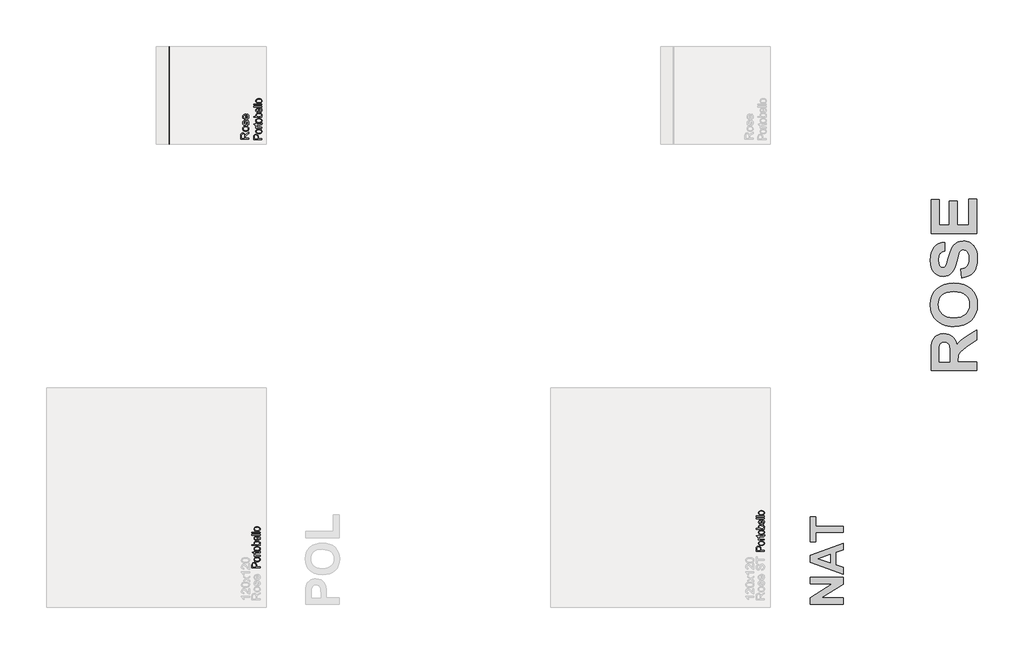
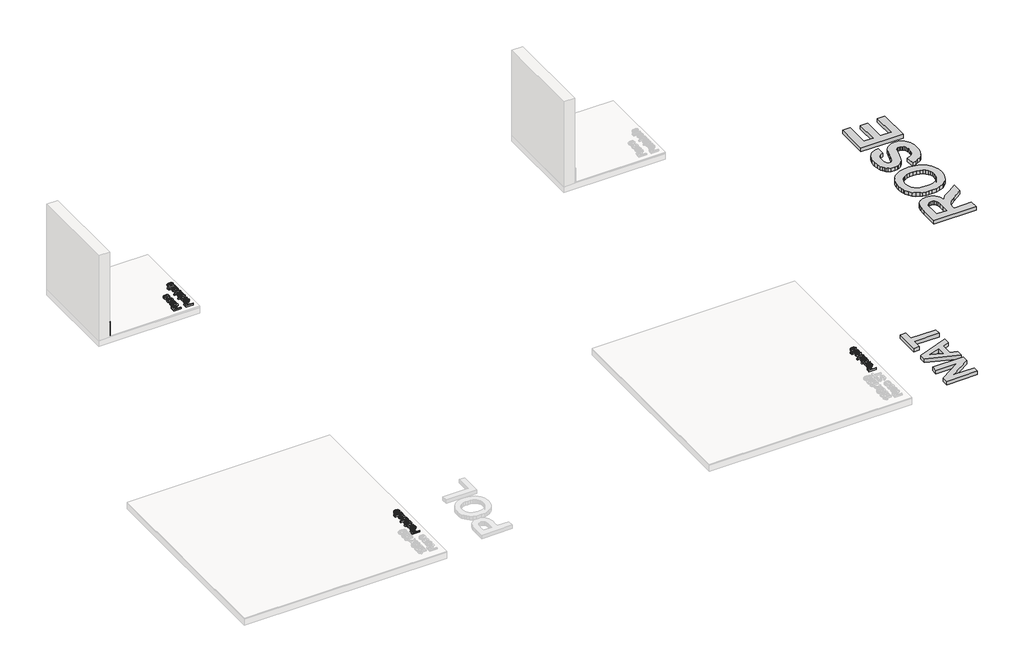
# One storey, part 3 of 14: 7 proxies.
"""IFC4 building model written with IfcOpenShell, lengths in millimetres."""

from ifc_helpers import new_model, si_unit, frame, origin, origin_with_axes, place, context, project, spatial, polyline, outline, extrude, element, save
from ifc_brep_helpers import plane_surface, extruded_surface, spline_curve, advanced_brep

model = new_model("IFC4")

# Units and contexts
model_context = context("Model", 3, world=origin())
ifc_project = project(units=[si_unit("LENGTHUNIT", "METRE", prefix="MILLI")], contexts=[model_context])

# Site, building, storey
site = spatial("IfcSite", under=ifc_project)
building = spatial("IfcBuilding", under=site)
storey = spatial("IfcBuildingStorey", under=building, Name="PORTOBELLO - SHOWROOM", Elevation=0.0)

# Proxies
placement = place(None, origin())
element("IfcBuildingElementProxy", 1, Name="RODAPE CRISTALLO ROSE 20X120 POL RET", ObjectType="RODAPE CRISTALLO ROSE 20X120 POL RET", at=placement, inside=storey, context=model_context, shape_type="AdvancedBrep", body=[
    advanced_brep(
    [(-11677.661959, -2964.6157886, 217.0), (-11677.661959, -2964.6157886, 17.0), (-11669.661959, -2964.6157886, 17.0), (-11669.661959, -2964.6157886, 209.0), (-11677.661959, -1764.6157886, 217.0), (-11669.661959, -1764.6157886, 209.0), (-11669.661959, -1764.6157886, 17.0), (-11677.661959, -1764.6157886, 17.0)],
    [
        (0, 1),
        (1, 2),
        (2, 3),
        (3, 0, spline_curve(3, [(-11669.661959, -2964.6157886, 209.0), (-11669.661959, -2964.6157886, 214.333333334), (-11672.328625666, -2964.6157886, 217.0), (-11677.661959, -2964.6157886, 217.0)], [4, 4], [0.0, 0.029527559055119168])),
        (4, 5, spline_curve(3, [(-11677.661959, -1764.6157886, 217.0), (-11672.328625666, -1764.6157886, 217.0), (-11669.661959, -1764.6157886, 214.333333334), (-11669.661959, -1764.6157886, 209.0)], [4, 4], [0.0, 0.029527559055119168])),
        (5, 6),
        (6, 7),
        (7, 4),
        (0, 4),
        (7, 1),
        (6, 2),
        (5, 3),
    ],
    [
        plane_surface(frame((-11877.661959, -2964.6157886, 17.0), z_axis=(0.0, -1.0, 0.0), x_axis=(0.0, 0.0, 1.0))),
        plane_surface(frame((-11877.661959, -1764.6157886, 17.0), z_axis=(0.0, 1.0, 0.0), x_axis=(0.0, 0.0, 1.0))),
        plane_surface(frame((-11677.661959, -2964.6157886, 217.0), z_axis=(-1.0, 0.0, 0.0), x_axis=(0.0, 1.0, 0.0))),
        plane_surface(frame((-11677.661959, -2964.6157886, 17.0), z_axis=(0.0, 0.0, -1.0), x_axis=(0.0, 1.0, 0.0))),
        plane_surface(frame((-11669.661959, -2964.6157886, 17.0), z_axis=(1.0, 0.0, 0.0), x_axis=(0.0, 1.0, 0.0))),
        extruded_surface(spline_curve(3, [(-11669.661959, -1764.6157886, 209.0), (-11669.661959, -1764.6157886, 214.333333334), (-11672.328625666, -1764.6157886, 217.0), (-11677.661959, -1764.6157886, 217.0)], [4, 4], [0.0, 0.029527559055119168]), (0.0, -1200.0, 0.0), 1200.0),
    ],
    [
        (0, [[1, 2, 3, 4]]),
        (1, [[5, 6, 7, 8]]),
        (2, [[-1, 9, -8, 10]]),
        (3, [[-2, -10, -7, 11]]),
        (4, [[-3, -11, -6, 12]]),
        (5, [[-4, -12, -5, -9]]),
    ],
),
])
element("IfcBuildingElementProxy", 2, Name="10mm Arial", ObjectType="10mm Arial", at=placement, inside=storey, context=model_context, shape_type="SweptSolid", body=[
    extrude(outline(polyline([(-10690.4182558, -2905.7397323), (-10790.8745659, -2905.7397323), (-10790.8745659, -2862.4522842), (-10788.1645019, -2842.3536645), (-10778.5750446, -2831.3662556), (-10763.3815182, -2827.25824), (-10753.4854925, -2828.9596942), (-10745.281724, -2834.0640569), (-10739.2668534, -2842.7246122), (-10735.9375213, -2855.0946443), (-10730.5664442, -2847.9577336), (-10717.6415234, -2837.7796651), (-10690.4182558, -2821.0287716), (-10690.4182558, -2835.621424), (-10711.2403767, -2848.6934976), (-10725.0236888, -2858.1358021), (-10731.5352001, -2864.7699408), (-10733.9264331, -2870.7418918), (-10734.3678915, -2878.0259553), (-10734.3678915, -2893.1826935), (-10690.4182558, -2893.1826935), (-10690.4182558, -2905.7397323)]), holes=[polyline([(-10746.9249302, -2893.1826935), (-10746.9249302, -2865.0765091), (-10748.7030266, -2850.741374), (-10754.3929347, -2842.5989192), (-10762.9155343, -2839.8152788), (-10773.9765196, -2845.1250422), (-10778.3175272, -2861.912724), (-10778.3175272, -2893.1826935), (-10746.9249302, -2893.1826935)])]), frame((0.0, 0.0, 18.0), z_axis=(0.0, 0.0, 1.0), x_axis=(1.0, 0.0, 0.0)), (0.0, 0.0, 1.0), 20.0),
    extrude(outline(polyline([(-10727.3045572, -2809.9923117), (-10745.0916516, -2807.2761163), (-10757.5935081, -2799.1275301), (-10763.7187433, -2789.0598262), (-10765.7604884, -2777.0055595), (-10763.2742193, -2763.8139243), (-10755.8154118, -2753.2771708), (-10743.9726772, -2746.3701863), (-10728.3346268, -2744.0678582), (-10705.9919269, -2748.1390856), (-10693.349049, -2759.9971486), (-10688.8486259, -2777.0055595), (-10691.325698, -2790.3566102), (-10698.7569143, -2800.881101), (-10710.8479693, -2807.714509), (-10727.3045572, -2809.9923117)]), holes=[polyline([(-10727.3290826, -2797.4352729), (-10715.9645947, -2795.9821391), (-10707.8681251, -2791.6227374), (-10703.0212798, -2785.0621752), (-10701.4056647, -2777.0055595), (-10703.0304769, -2768.985732), (-10707.9049133, -2762.4374325), (-10716.1086818, -2758.0780308), (-10727.7214901, -2756.6248969), (-10738.7548843, -2758.0872279), (-10746.7409893, -2762.4742207), (-10751.5878345, -2769.0317172), (-10753.2034496, -2777.0055595), (-10751.5939659, -2785.0621752), (-10746.7655147, -2791.6227374), (-10738.6874392, -2795.9821391), (-10727.3290826, -2797.4352729)])]), frame((0.0, 0.0, 18.0), z_axis=(0.0, 0.0, 1.0), x_axis=(1.0, 0.0, 0.0)), (0.0, 0.0, 1.0), 20.0),
    extrude(outline(polyline([(-10712.3930736, -2734.6500791), (-10713.9627035, -2722.0930403), (-10704.6430263, -2716.2805048), (-10701.4056647, -2702.9631766), (-10704.3732461, -2690.1608831), (-10711.3384786, -2685.9915539), (-10716.9793358, -2690.1854086), (-10720.5600539, -2703.1103294), (-10726.7036832, -2722.0194639), (-10733.8773822, -2730.2722834), (-10744.0063998, -2733.0804492), (-10753.3628652, -2730.8241063), (-10760.5120386, -2724.6682143), (-10764.2276468, -2716.685175), (-10765.7604884, -2705.8817071), (-10763.295679, -2690.6023415), (-10756.6247522, -2680.8902569), (-10745.3553004, -2676.5737748), (-10743.7856706, -2689.1308136), (-10750.7141148, -2693.8519658), (-10753.2034496, -2704.9006884), (-10750.8244794, -2716.9181669), (-10745.281724, -2720.5234105), (-10741.6274295, -2719.027357), (-10738.8560518, -2714.342993), (-10736.182776, -2703.5272623), (-10730.2721386, -2685.0963743), (-10723.5766863, -2676.5369866), (-10712.6628538, -2673.4345151), (-10700.6453753, -2677.0765468), (-10691.926572, -2687.5857092), (-10688.8486259, -2703.1348548), (-10690.3324167, -2715.7961268), (-10694.7837888, -2725.0360963), (-10702.1536914, -2731.2042511), (-10712.3930736, -2734.6500791)])), frame((0.0, 0.0, 18.0), z_axis=(0.0, 0.0, 1.0), x_axis=(1.0, 0.0, 0.0)), (0.0, 0.0, 1.0), 20.0),
    extrude(outline(polyline([(-10712.3930736, -2607.6572144), (-10710.8234438, -2595.3454303), (-10701.5466861, -2599.781474), (-10694.6121105, -2606.8601367), (-10690.2894971, -2616.4220029), (-10688.8486259, -2628.307657), (-10691.3348951, -2643.0413309), (-10698.7937025, -2654.3782277), (-10710.7406703, -2661.607109), (-10726.6914205, -2664.016736), (-10743.1786653, -2661.5825835), (-10755.5088435, -2654.2801259), (-10763.1975772, -2643.0965132), (-10765.7604884, -2629.0188955), (-10763.2037085, -2615.3796706), (-10755.5333689, -2604.4811665), (-10743.2277162, -2597.3350587), (-10726.7649969, -2594.9530228), (-10723.3804826, -2595.0265992), (-10723.3804826, -2651.4596973), (-10713.9810976, -2649.2861278), (-10707.0710474, -2644.2369474), (-10702.8220104, -2636.9498182), (-10701.4056647, -2628.0624024), (-10704.0298896, -2615.7506183), (-10712.3930736, -2607.6572144)]), holes=[polyline([(-10735.9375213, -2651.4596973), (-10735.9375213, -2607.5100616), (-10747.3173377, -2612.5377822), (-10751.7319217, -2619.8586339), (-10753.2034496, -2629.0679465), (-10748.5068228, -2644.531253), (-10743.016184, -2649.3964924), (-10735.9375213, -2651.4596973)])]), frame((0.0, 0.0, 18.0), z_axis=(0.0, 0.0, 1.0), x_axis=(1.0, 0.0, 0.0)), (0.0, 0.0, 1.0), 20.0),
])
element("IfcBuildingElementProxy", 3, Name="10mm Arial Narrow", ObjectType="10mm Arial Narrow", at=placement, inside=storey, context=model_context, shape_type="SweptSolid", body=[
    extrude(outline(polyline([(-10552.2181326, -8175.4190736), (-10652.9367364, -8175.4190736), (-10652.9367364, -8144.1221889), (-10651.0584157, -8127.8264874), (-10641.5779725, -8116.3535013), (-10624.5588637, -8112.0638228), (-10612.4830381, -8113.8501312), (-10602.8566444, -8119.2090564), (-10596.555386, -8128.9528453), (-10594.4549665, -8143.8937445), (-10594.4549665, -8165.6721119), (-10552.2181326, -8165.6721119), (-10552.2181326, -8175.4190736)]), holes=[polyline([(-10605.8264217, -8165.6721119), (-10605.8264217, -8142.700757), (-10610.3572359, -8126.8365616), (-10624.0258267, -8121.8107845), (-10634.1916031, -8124.285599), (-10639.991553, -8130.2632278), (-10641.5652811, -8142.9292014), (-10641.5652811, -8165.6721119), (-10605.8264217, -8165.6721119)])]), frame((0.0, 0.0, 17.0), z_axis=(0.0, 0.0, 1.0), x_axis=(1.0, 0.0, 0.0)), (0.0, 0.0, 1.0), 20.0),
    extrude(outline(polyline([(-10588.7692388, -8103.9413548), (-10605.3600144, -8101.9868859), (-10617.3120992, -8096.1234793), (-10624.5366538, -8087.2649126), (-10626.9448387, -8076.3249634), (-10624.5366538, -8065.5119279), (-10617.3120992, -8056.6279784), (-10605.5503847, -8050.6884237), (-10589.5307202, -8048.7085721), (-10572.3688336, -8050.6535224), (-10560.2263785, -8056.4883735), (-10553.0018239, -8065.3374217), (-10550.593639, -8076.3249634), (-10553.0081696, -8087.1855916), (-10560.2517612, -8096.0600225), (-10572.2101917, -8101.9710217), (-10588.7692388, -8103.9413548)]), holes=[polyline([(-10588.7946216, -8094.1943931), (-10576.2428702, -8092.8903563), (-10567.3716121, -8088.9782457), (-10562.0983535, -8083.1370489), (-10560.3406007, -8076.0457536), (-10562.1142177, -8069.3256804), (-10567.4350689, -8063.6336071), (-10576.3221911, -8059.7500521), (-10588.7946216, -8058.4555337), (-10601.3082989, -8059.7595706), (-10610.1668656, -8063.6716812), (-10615.4401242, -8069.5128779), (-10617.197877, -8076.6041733), (-10615.4306056, -8083.371839), (-10610.1287915, -8089.0543938), (-10601.2607063, -8092.9093933), (-10588.7946216, -8094.1943931)])]), frame((0.0, 0.0, 17.0), z_axis=(0.0, 0.0, 1.0), x_axis=(1.0, 0.0, 0.0)), (0.0, 0.0, 1.0), 20.0),
    extrude(outline(polyline([(-10560.3406007, -7977.2308533), (-10550.593639, -7975.6063597), (-10550.593639, -7982.9673463), (-10552.7130955, -7991.2421107), (-10558.5130454, -7995.5571718), (-10573.1588706, -7996.7247766), (-10615.5733834, -7996.7247766), (-10615.5733834, -8004.8472446), (-10618.8223706, -8004.8472446), (-10613.9488898, -8006.4717383), (-10615.5733834, -8014.0357866), (-10613.2508652, -8020.1149463), (-10606.7655821, -8023.98581), (-10591.3582755, -8025.9656616), (-10552.2181326, -8025.9656616), (-10552.2181326, -8035.7126232), (-10625.320345, -8035.7126232), (-10625.320345, -8025.9656616), (-10615.6241488, -8025.9656616), (-10624.7111599, -8019.7215142), (-10626.9448387, -8013.3250707), (-10625.320345, -8004.8472446), (-10625.320345, -7996.7247766), (-10641.5652811, -7996.7247766), (-10649.6877492, -7986.9778149), (-10625.320345, -7986.9778149), (-10625.320345, -7977.2308533), (-10615.5733834, -7977.2308533), (-10615.5733834, -7986.9778149), (-10570.9251919, -7986.9778149), (-10562.9296374, -7986.1148027), (-10560.3406007, -7981.495149), (-10560.3406007, -7977.2308533)])), frame((0.0, 0.0, 17.0), z_axis=(0.0, 0.0, 1.0), x_axis=(1.0, 0.0, 0.0)), (0.0, 0.0, 1.0), 20.0),
    extrude(outline(polyline([(-10588.7692388, -7970.7328789), (-10605.3600144, -7968.77841), (-10617.3120992, -7962.9150034), (-10624.5366538, -7954.0564367), (-10626.9448387, -7943.1164875), (-10624.5366538, -7932.3034519), (-10617.3120992, -7923.4195025), (-10605.5503847, -7917.4799477), (-10589.5307202, -7915.5000962), (-10572.3688336, -7917.4450465), (-10560.2263785, -7923.2798976), (-10553.0018239, -7932.1289458), (-10550.593639, -7943.1164875), (-10553.0081696, -7953.9771157), (-10560.2517612, -7962.8515466), (-10572.2101917, -7968.7625458), (-10588.7692388, -7970.7328789)]), holes=[polyline([(-10588.7946216, -7960.9859172), (-10576.2428702, -7959.6818803), (-10567.3716121, -7955.7697698), (-10562.0983535, -7949.928573), (-10560.3406007, -7942.8372777), (-10562.1142177, -7936.1172045), (-10567.4350689, -7930.4251312), (-10576.3221911, -7926.5415762), (-10588.7946216, -7925.2470578), (-10601.3082989, -7926.5510947), (-10610.1668656, -7930.4632053), (-10615.4401242, -7936.304402), (-10617.197877, -7943.3956973), (-10615.4306056, -7950.1633631), (-10610.1287915, -7955.8459179), (-10601.2607063, -7959.7009174), (-10588.7946216, -7960.9859172)])]), frame((0.0, 0.0, 17.0), z_axis=(0.0, 0.0, 1.0), x_axis=(1.0, 0.0, 0.0)), (0.0, 0.0, 1.0), 20.0),
    extrude(outline(polyline([(-10552.2181326, -7892.7571856), (-10552.2181326, -7902.5041473), (-10652.9367364, -7902.5041473), (-10652.9367364, -7892.7571856), (-10617.5278523, -7892.7571856), (-10624.6096291, -7885.3581249), (-10626.9448387, -7876.1568916), (-10622.7439997, -7863.2751649), (-10610.0145693, -7853.9977834), (-10589.3276585, -7850.5203518), (-10572.8733151, -7852.4526108), (-10560.670576, -7858.2493878), (-10553.1128733, -7866.6225101), (-10550.593639, -7876.2838051), (-10553.2080584, -7885.6246434), (-10560.9751685, -7892.7571856), (-10552.2181326, -7892.7571856)]), holes=[polyline([(-10589.3276585, -7892.7571856), (-10572.0801053, -7890.6758032), (-10563.3484521, -7884.7870139), (-10560.3406007, -7876.3345705), (-10562.1300819, -7870.391843), (-10567.4985257, -7865.1534856), (-10588.9215351, -7860.2673134), (-10610.3572359, -7864.9758066), (-10615.4877167, -7870.2205096), (-10617.197877, -7876.5376323), (-10615.4083958, -7882.5152611), (-10610.039952, -7887.8075567), (-10589.3276585, -7892.7571856)])]), frame((0.0, 0.0, 17.0), z_axis=(0.0, 0.0, 1.0), x_axis=(1.0, 0.0, 0.0)), (0.0, 0.0, 1.0), 20.0),
    extrude(outline(polyline([(-10574.9610432, -7798.5365563), (-10573.3365496, -7788.7895947), (-10563.449983, -7792.489125), (-10556.3301321, -7798.3081119), (-10552.0277623, -7806.0117652), (-10550.593639, -7815.3652948), (-10553.0081696, -7826.9588488), (-10560.2517612, -7836.102971), (-10572.0578954, -7842.0425258), (-10588.1600537, -7844.0223774), (-10604.8269774, -7842.0330073), (-10617.0075067, -7836.0648969), (-10624.4605057, -7827.0508611), (-10626.9448387, -7815.9237145), (-10624.5461723, -7805.2407653), (-10617.3501733, -7796.4932479), (-10605.6106687, -7790.6583969), (-10589.5814857, -7788.7134465), (-10586.3324984, -7788.7895947), (-10586.3324984, -7834.2754157), (-10566.8893406, -7828.2724042), (-10561.9777857, -7822.3423679), (-10560.3406007, -7815.2383812), (-10563.9957113, -7805.0599135), (-10574.9610432, -7798.5365563)]), holes=[polyline([(-10596.0794601, -7833.6154652), (-10596.0794601, -7798.5365563), (-10610.3445446, -7802.800852), (-10615.4845439, -7808.6261846), (-10617.197877, -7815.8475663), (-10611.4867667, -7828.0566511), (-10596.0794601, -7833.6154652)])]), frame((0.0, 0.0, 17.0), z_axis=(0.0, 0.0, 1.0), x_axis=(1.0, 0.0, 0.0)), (0.0, 0.0, 1.0), 20.0),
    extrude(outline(polyline([(-10552.2181326, -7775.7936458), (-10652.9367364, -7775.7936458), (-10652.9367364, -7766.0466841), (-10552.2181326, -7766.0466841), (-10552.2181326, -7775.7936458)])), frame((0.0, 0.0, 17.0), z_axis=(0.0, 0.0, 1.0), x_axis=(1.0, 0.0, 0.0)), (0.0, 0.0, 1.0), 20.0),
    extrude(outline(polyline([(-10552.2181326, -7749.801748), (-10652.9367364, -7749.801748), (-10652.9367364, -7740.0547864), (-10552.2181326, -7740.0547864), (-10552.2181326, -7749.801748)])), frame((0.0, 0.0, 17.0), z_axis=(0.0, 0.0, 1.0), x_axis=(1.0, 0.0, 0.0)), (0.0, 0.0, 1.0), 20.0),
    extrude(outline(polyline([(-10588.7692388, -7728.6833311), (-10605.3600144, -7726.7288623), (-10617.3120992, -7720.8654556), (-10624.5366538, -7712.0068889), (-10626.9448387, -7701.0669398), (-10624.5366538, -7690.2539042), (-10617.3120992, -7681.3699548), (-10605.5503847, -7675.4304), (-10589.5307202, -7673.4505484), (-10572.3688336, -7675.3954988), (-10560.2263785, -7681.2303498), (-10553.0018239, -7690.079398), (-10550.593639, -7701.0669398), (-10553.0081696, -7711.9275679), (-10560.2517612, -7720.8019989), (-10572.2101917, -7726.7129981), (-10588.7692388, -7728.6833311)]), holes=[polyline([(-10588.7946216, -7718.9363695), (-10576.2428702, -7717.6323326), (-10567.3716121, -7713.720222), (-10562.0983535, -7707.8790253), (-10560.3406007, -7700.7877299), (-10562.1142177, -7694.0676568), (-10567.4350689, -7688.3755835), (-10576.3221911, -7684.4920284), (-10588.7946216, -7683.1975101), (-10601.3082989, -7684.5015469), (-10610.1668656, -7688.4136575), (-10615.4401242, -7694.2548543), (-10617.197877, -7701.3461496), (-10615.4306056, -7708.1138154), (-10610.1287915, -7713.7963702), (-10601.2607063, -7717.6513696), (-10588.7946216, -7718.9363695)])]), frame((0.0, 0.0, 17.0), z_axis=(0.0, 0.0, 1.0), x_axis=(1.0, 0.0, 0.0)), (0.0, 0.0, 1.0), 20.0),
])
element("IfcBuildingElementProxy", 4, Name="10mm Arial Narrow", ObjectType="10mm Arial Narrow", at=placement, inside=storey, context=model_context, shape_type="SweptSolid", body=[
    extrude(outline(polyline([(-4352.1931166, -7975.4190736), (-4452.9117203, -7975.4190736), (-4452.9117203, -7944.1221889), (-4451.0333996, -7927.8264874), (-4441.5529564, -7916.3535013), (-4424.5338476, -7912.0638228), (-4412.4580221, -7913.8501312), (-4402.8316283, -7919.2090564), (-4396.5303699, -7928.9528453), (-4394.4299504, -7943.8937445), (-4394.4299504, -7965.6721119), (-4352.1931166, -7965.6721119), (-4352.1931166, -7975.4190736)]), holes=[polyline([(-4405.8014057, -7965.6721119), (-4405.8014057, -7942.700757), (-4410.3322199, -7926.8365616), (-4424.0008106, -7921.8107845), (-4434.166587, -7924.285599), (-4439.9665369, -7930.2632278), (-4441.5402651, -7942.9292014), (-4441.5402651, -7965.6721119), (-4405.8014057, -7965.6721119)])]), frame((0.0, 0.0, 17.0), z_axis=(0.0, 0.0, 1.0), x_axis=(1.0, 0.0, 0.0)), (0.0, 0.0, 1.0), 20.0),
    extrude(outline(polyline([(-4388.7442228, -7903.9413548), (-4405.3349983, -7901.9868859), (-4417.2870831, -7896.1234793), (-4424.5116377, -7887.2649126), (-4426.9198226, -7876.3249634), (-4424.5116377, -7865.5119279), (-4417.2870831, -7856.6279784), (-4405.5253687, -7850.6884237), (-4389.5057041, -7848.7085721), (-4372.3438176, -7850.6535224), (-4360.2013624, -7856.4883735), (-4352.9768078, -7865.3374217), (-4350.568623, -7876.3249634), (-4352.9831535, -7887.1855916), (-4360.2267451, -7896.0600225), (-4372.1851756, -7901.9710217), (-4388.7442228, -7903.9413548)]), holes=[polyline([(-4388.7696055, -7894.1943931), (-4376.2178541, -7892.8903563), (-4367.346596, -7888.9782457), (-4362.0733375, -7883.1370489), (-4360.3155846, -7876.0457536), (-4362.0892017, -7869.3256804), (-4367.4100528, -7863.6336071), (-4376.2971751, -7859.7500521), (-4388.7696055, -7858.4555337), (-4401.2832828, -7859.7595706), (-4410.1418495, -7863.6716812), (-4415.4151081, -7869.5128779), (-4417.1728609, -7876.6041733), (-4415.4055896, -7883.371839), (-4410.1037755, -7889.0543938), (-4401.2356902, -7892.9093933), (-4388.7696055, -7894.1943931)])]), frame((0.0, 0.0, 17.0), z_axis=(0.0, 0.0, 1.0), x_axis=(1.0, 0.0, 0.0)), (0.0, 0.0, 1.0), 20.0),
    extrude(outline(polyline([(-4360.3155846, -7777.2308533), (-4350.568623, -7775.6063597), (-4350.568623, -7782.9673463), (-4352.6880795, -7791.2421107), (-4358.4880293, -7795.5571718), (-4373.1338545, -7796.7247766), (-4415.5483673, -7796.7247766), (-4415.5483673, -7804.8472446), (-4418.7973545, -7804.8472446), (-4413.9238737, -7806.4717383), (-4415.5483673, -7814.0357866), (-4413.2258491, -7820.1149463), (-4406.740566, -7823.98581), (-4391.3332595, -7825.9656616), (-4352.1931166, -7825.9656616), (-4352.1931166, -7835.7126232), (-4425.295329, -7835.7126232), (-4425.295329, -7825.9656616), (-4415.5991327, -7825.9656616), (-4424.6861439, -7819.7215142), (-4426.9198226, -7813.3250707), (-4425.295329, -7804.8472446), (-4425.295329, -7796.7247766), (-4441.5402651, -7796.7247766), (-4449.6627331, -7786.9778149), (-4425.295329, -7786.9778149), (-4425.295329, -7777.2308533), (-4415.5483673, -7777.2308533), (-4415.5483673, -7786.9778149), (-4370.9001758, -7786.9778149), (-4362.9046213, -7786.1148027), (-4360.3155846, -7781.495149), (-4360.3155846, -7777.2308533)])), frame((0.0, 0.0, 17.0), z_axis=(0.0, 0.0, 1.0), x_axis=(1.0, 0.0, 0.0)), (0.0, 0.0, 1.0), 20.0),
    extrude(outline(polyline([(-4388.7442228, -7770.7328789), (-4405.3349983, -7768.77841), (-4417.2870831, -7762.9150034), (-4424.5116377, -7754.0564367), (-4426.9198226, -7743.1164875), (-4424.5116377, -7732.3034519), (-4417.2870831, -7723.4195025), (-4405.5253687, -7717.4799477), (-4389.5057041, -7715.5000962), (-4372.3438176, -7717.4450465), (-4360.2013624, -7723.2798976), (-4352.9768078, -7732.1289458), (-4350.568623, -7743.1164875), (-4352.9831535, -7753.9771157), (-4360.2267451, -7762.8515466), (-4372.1851756, -7768.7625458), (-4388.7442228, -7770.7328789)]), holes=[polyline([(-4388.7696055, -7760.9859172), (-4376.2178541, -7759.6818803), (-4367.346596, -7755.7697698), (-4362.0733375, -7749.928573), (-4360.3155846, -7742.8372777), (-4362.0892017, -7736.1172045), (-4367.4100528, -7730.4251312), (-4376.2971751, -7726.5415762), (-4388.7696055, -7725.2470578), (-4401.2832828, -7726.5510947), (-4410.1418495, -7730.4632053), (-4415.4151081, -7736.304402), (-4417.1728609, -7743.3956973), (-4415.4055896, -7750.1633631), (-4410.1037755, -7755.8459179), (-4401.2356902, -7759.7009174), (-4388.7696055, -7760.9859172)])]), frame((0.0, 0.0, 17.0), z_axis=(0.0, 0.0, 1.0), x_axis=(1.0, 0.0, 0.0)), (0.0, 0.0, 1.0), 20.0),
    extrude(outline(polyline([(-4352.1931166, -7692.7571856), (-4352.1931166, -7702.5041473), (-4452.9117203, -7702.5041473), (-4452.9117203, -7692.7571856), (-4417.5028362, -7692.7571856), (-4424.584613, -7685.3581249), (-4426.9198226, -7676.1568916), (-4422.7189836, -7663.2751649), (-4409.9895532, -7653.9977834), (-4389.3026424, -7650.5203518), (-4372.848299, -7652.4526108), (-4360.6455599, -7658.2493878), (-4353.0878572, -7666.6225101), (-4350.568623, -7676.2838051), (-4353.1830424, -7685.6246434), (-4360.9501524, -7692.7571856), (-4352.1931166, -7692.7571856)]), holes=[polyline([(-4389.3026424, -7692.7571856), (-4372.0550892, -7690.6758032), (-4363.3234361, -7684.7870139), (-4360.3155846, -7676.3345705), (-4362.1050659, -7670.391843), (-4367.4735096, -7665.1534856), (-4388.896519, -7660.2673134), (-4410.3322199, -7664.9758066), (-4415.4627007, -7670.2205096), (-4417.1728609, -7676.5376323), (-4415.3833797, -7682.5152611), (-4410.014936, -7687.8075567), (-4389.3026424, -7692.7571856)])]), frame((0.0, 0.0, 17.0), z_axis=(0.0, 0.0, 1.0), x_axis=(1.0, 0.0, 0.0)), (0.0, 0.0, 1.0), 20.0),
    extrude(outline(polyline([(-4374.9360271, -7598.5365563), (-4373.3115335, -7588.7895947), (-4363.4249669, -7592.489125), (-4356.305116, -7598.3081119), (-4352.0027462, -7606.0117652), (-4350.568623, -7615.3652948), (-4352.9831535, -7626.9588488), (-4360.2267451, -7636.102971), (-4372.0328793, -7642.0425258), (-4388.1350377, -7644.0223774), (-4404.8019614, -7642.0330073), (-4416.9824906, -7636.0648969), (-4424.4354896, -7627.0508611), (-4426.9198226, -7615.9237145), (-4424.5211562, -7605.2407653), (-4417.3251572, -7596.4932479), (-4405.5856526, -7590.6583969), (-4389.5564696, -7588.7134465), (-4386.3074824, -7588.7895947), (-4386.3074824, -7634.2754157), (-4366.8643245, -7628.2724042), (-4361.9527696, -7622.3423679), (-4360.3155846, -7615.2383812), (-4363.9706952, -7605.0599135), (-4374.9360271, -7598.5365563)]), holes=[polyline([(-4396.054444, -7633.6154652), (-4396.054444, -7598.5365563), (-4410.3195285, -7602.800852), (-4415.4595278, -7608.6261846), (-4417.1728609, -7615.8475663), (-4411.4617506, -7628.0566511), (-4396.054444, -7633.6154652)])]), frame((0.0, 0.0, 17.0), z_axis=(0.0, 0.0, 1.0), x_axis=(1.0, 0.0, 0.0)), (0.0, 0.0, 1.0), 20.0),
    extrude(outline(polyline([(-4352.1931166, -7575.7936458), (-4452.9117203, -7575.7936458), (-4452.9117203, -7566.0466841), (-4352.1931166, -7566.0466841), (-4352.1931166, -7575.7936458)])), frame((0.0, 0.0, 17.0), z_axis=(0.0, 0.0, 1.0), x_axis=(1.0, 0.0, 0.0)), (0.0, 0.0, 1.0), 20.0),
    extrude(outline(polyline([(-4352.1931166, -7549.801748), (-4452.9117203, -7549.801748), (-4452.9117203, -7540.0547864), (-4352.1931166, -7540.0547864), (-4352.1931166, -7549.801748)])), frame((0.0, 0.0, 17.0), z_axis=(0.0, 0.0, 1.0), x_axis=(1.0, 0.0, 0.0)), (0.0, 0.0, 1.0), 20.0),
    extrude(outline(polyline([(-4388.7442228, -7528.6833311), (-4405.3349983, -7526.7288623), (-4417.2870831, -7520.8654556), (-4424.5116377, -7512.0068889), (-4426.9198226, -7501.0669398), (-4424.5116377, -7490.2539042), (-4417.2870831, -7481.3699548), (-4405.5253687, -7475.4304), (-4389.5057041, -7473.4505484), (-4372.3438176, -7475.3954988), (-4360.2013624, -7481.2303498), (-4352.9768078, -7490.079398), (-4350.568623, -7501.0669398), (-4352.9831535, -7511.9275679), (-4360.2267451, -7520.8019989), (-4372.1851756, -7526.7129981), (-4388.7442228, -7528.6833311)]), holes=[polyline([(-4388.7696055, -7518.9363695), (-4376.2178541, -7517.6323326), (-4367.346596, -7513.720222), (-4362.0733375, -7507.8790253), (-4360.3155846, -7500.7877299), (-4362.0892017, -7494.0676568), (-4367.4100528, -7488.3755835), (-4376.2971751, -7484.4920284), (-4388.7696055, -7483.1975101), (-4401.2832828, -7484.5015469), (-4410.1418495, -7488.4136575), (-4415.4151081, -7494.2548543), (-4417.1728609, -7501.3461496), (-4415.4055896, -7508.1138154), (-4410.1037755, -7513.7963702), (-4401.2356902, -7517.6513696), (-4388.7696055, -7518.9363695)])]), frame((0.0, 0.0, 17.0), z_axis=(0.0, 0.0, 1.0), x_axis=(1.0, 0.0, 0.0)), (0.0, 0.0, 1.0), 20.0),
])
element("IfcBuildingElementProxy", 5, Name="10mm Arial Narrow", ObjectType="10mm Arial Narrow", at=placement, inside=storey, context=model_context, shape_type="SweptSolid", body=[
    extrude(outline(polyline([(-10530.4182558, -2908.6046732), (-10631.1368595, -2908.6046732), (-10631.1368595, -2877.3077885), (-10629.2585388, -2861.012087), (-10619.7780956, -2849.5391009), (-10602.7589868, -2845.2494224), (-10590.6831613, -2847.0357308), (-10581.0567675, -2852.3946561), (-10574.7555091, -2862.1384449), (-10572.6550896, -2877.0793441), (-10572.6550896, -2898.8577115), (-10530.4182558, -2898.8577115), (-10530.4182558, -2908.6046732)]), holes=[polyline([(-10584.0265449, -2898.8577115), (-10584.0265449, -2875.8863566), (-10588.5573591, -2860.0221612), (-10602.2259498, -2854.9963841), (-10612.3917263, -2857.4711986), (-10618.1916761, -2863.4488274), (-10619.7654043, -2876.114801), (-10619.7654043, -2898.8577115), (-10584.0265449, -2898.8577115)])]), frame((0.0, 0.0, 18.0), z_axis=(0.0, 0.0, 1.0), x_axis=(1.0, 0.0, 0.0)), (0.0, 0.0, 1.0), 20.0),
    extrude(outline(polyline([(-10566.969362, -2837.1269544), (-10583.5601375, -2835.1724855), (-10595.5122224, -2829.3090789), (-10602.7367769, -2820.4505122), (-10605.1449618, -2809.5105631), (-10602.7367769, -2798.6975275), (-10595.5122224, -2789.813578), (-10583.7505079, -2783.8740233), (-10567.7308434, -2781.8941717), (-10550.5689568, -2783.8391221), (-10538.4265016, -2789.6739731), (-10531.201947, -2798.5230213), (-10528.7937622, -2809.5105631), (-10531.2082927, -2820.3711912), (-10538.4518843, -2829.2456221), (-10550.4103148, -2835.1566213), (-10566.969362, -2837.1269544)]), holes=[polyline([(-10566.9947447, -2827.3799927), (-10554.4429933, -2826.0759559), (-10545.5717352, -2822.1638453), (-10540.2984767, -2816.3226486), (-10538.5407238, -2809.2313532), (-10540.3143409, -2802.51128), (-10545.635192, -2796.8192067), (-10554.5223143, -2792.9356517), (-10566.9947447, -2791.6411334), (-10579.508422, -2792.9451702), (-10588.3669887, -2796.8572808), (-10593.6402473, -2802.6984775), (-10595.3980001, -2809.7897729), (-10593.6307288, -2816.5574386), (-10588.3289147, -2822.2399934), (-10579.4608294, -2826.0949929), (-10566.9947447, -2827.3799927)])]), frame((0.0, 0.0, 18.0), z_axis=(0.0, 0.0, 1.0), x_axis=(1.0, 0.0, 0.0)), (0.0, 0.0, 1.0), 20.0),
    extrude(outline(polyline([(-10538.5407238, -2710.4164529), (-10528.7937622, -2708.7919593), (-10528.7937622, -2716.152946), (-10530.9132187, -2724.4277103), (-10536.7131685, -2728.7427714), (-10551.3589937, -2729.9103762), (-10593.7735065, -2729.9103762), (-10593.7735065, -2738.0328443), (-10597.0224938, -2738.0328443), (-10592.1490129, -2739.6573379), (-10593.7735065, -2747.2213862), (-10591.4509883, -2753.3005459), (-10584.9657053, -2757.1714096), (-10569.5583987, -2759.1512612), (-10530.4182558, -2759.1512612), (-10530.4182558, -2768.8982228), (-10603.5204682, -2768.8982228), (-10603.5204682, -2759.1512612), (-10593.824272, -2759.1512612), (-10602.9112831, -2752.9071139), (-10605.1449618, -2746.5106703), (-10603.5204682, -2738.0328443), (-10603.5204682, -2729.9103762), (-10619.7654043, -2729.9103762), (-10627.8878723, -2720.1634146), (-10603.5204682, -2720.1634146), (-10603.5204682, -2710.4164529), (-10593.7735065, -2710.4164529), (-10593.7735065, -2720.1634146), (-10549.125315, -2720.1634146), (-10541.1297605, -2719.3004023), (-10538.5407238, -2714.6807486), (-10538.5407238, -2710.4164529)])), frame((0.0, 0.0, 18.0), z_axis=(0.0, 0.0, 1.0), x_axis=(1.0, 0.0, 0.0)), (0.0, 0.0, 1.0), 20.0),
    extrude(outline(polyline([(-10566.969362, -2703.9184785), (-10583.5601375, -2701.9640096), (-10595.5122224, -2696.100603), (-10602.7367769, -2687.2420363), (-10605.1449618, -2676.3020871), (-10602.7367769, -2665.4890515), (-10595.5122224, -2656.6051021), (-10583.7505079, -2650.6655474), (-10567.7308434, -2648.6856958), (-10550.5689568, -2650.6306461), (-10538.4265016, -2656.4654972), (-10531.201947, -2665.3145454), (-10528.7937622, -2676.3020871), (-10531.2082927, -2687.1627153), (-10538.4518843, -2696.0371462), (-10550.4103148, -2701.9481454), (-10566.969362, -2703.9184785)]), holes=[polyline([(-10566.9947447, -2694.1715168), (-10554.4429933, -2692.86748), (-10545.5717352, -2688.9553694), (-10540.2984767, -2683.1141726), (-10538.5407238, -2676.0228773), (-10540.3143409, -2669.3028041), (-10545.635192, -2663.6107308), (-10554.5223143, -2659.7271758), (-10566.9947447, -2658.4326574), (-10579.508422, -2659.7366943), (-10588.3669887, -2663.6488049), (-10593.6402473, -2669.4900016), (-10595.3980001, -2676.581297), (-10593.6307288, -2683.3489627), (-10588.3289147, -2689.0315175), (-10579.4608294, -2692.886517), (-10566.9947447, -2694.1715168)])]), frame((0.0, 0.0, 18.0), z_axis=(0.0, 0.0, 1.0), x_axis=(1.0, 0.0, 0.0)), (0.0, 0.0, 1.0), 20.0),
    extrude(outline(polyline([(-10530.4182558, -2625.9427852), (-10530.4182558, -2635.6897469), (-10631.1368595, -2635.6897469), (-10631.1368595, -2625.9427852), (-10595.7279754, -2625.9427852), (-10602.8097522, -2618.5437245), (-10605.1449618, -2609.3424912), (-10600.9441229, -2596.4607645), (-10588.2146925, -2587.183383), (-10567.5277817, -2583.7059514), (-10551.0734382, -2585.6382104), (-10538.8706991, -2591.4349874), (-10531.3129964, -2599.8081097), (-10528.7937622, -2609.4694047), (-10531.4081816, -2618.810243), (-10539.1752916, -2625.9427852), (-10530.4182558, -2625.9427852)]), holes=[polyline([(-10567.5277817, -2625.9427852), (-10550.2802284, -2623.8614028), (-10541.5485753, -2617.9726135), (-10538.5407238, -2609.5201702), (-10540.3302051, -2603.5774426), (-10545.6986488, -2598.3390852), (-10567.1216583, -2593.4529131), (-10588.5573591, -2598.1614063), (-10593.6878399, -2603.4061093), (-10595.3980001, -2609.7232319), (-10593.6085189, -2615.7008607), (-10588.2400752, -2620.9931563), (-10567.5277817, -2625.9427852)])]), frame((0.0, 0.0, 18.0), z_axis=(0.0, 0.0, 1.0), x_axis=(1.0, 0.0, 0.0)), (0.0, 0.0, 1.0), 20.0),
    extrude(outline(polyline([(-10553.1611663, -2531.7221559), (-10551.5366727, -2521.9751943), (-10541.6501061, -2525.6747246), (-10534.5302552, -2531.4937115), (-10530.2278854, -2539.1973648), (-10528.7937622, -2548.5508944), (-10531.2082927, -2560.1444484), (-10538.4518843, -2569.2885706), (-10550.2580186, -2575.2281254), (-10566.3601769, -2577.207977), (-10583.0271006, -2575.2186069), (-10595.2076298, -2569.2504966), (-10602.6606288, -2560.2364607), (-10605.1449618, -2549.1093141), (-10602.7462955, -2538.4263649), (-10595.5502964, -2529.6788476), (-10583.8107918, -2523.8439965), (-10567.7816088, -2521.8990461), (-10564.5326216, -2521.9751943), (-10564.5326216, -2567.4610153), (-10545.0894637, -2561.4580038), (-10540.1779088, -2555.5279675), (-10538.5407238, -2548.4239808), (-10542.1958345, -2538.2455131), (-10553.1611663, -2531.7221559)]), holes=[polyline([(-10574.2795832, -2566.8010648), (-10574.2795832, -2531.7221559), (-10588.5446677, -2535.9864516), (-10593.684667, -2541.8117842), (-10595.3980001, -2549.0331659), (-10589.6868898, -2561.2422507), (-10574.2795832, -2566.8010648)])]), frame((0.0, 0.0, 18.0), z_axis=(0.0, 0.0, 1.0), x_axis=(1.0, 0.0, 0.0)), (0.0, 0.0, 1.0), 20.0),
    extrude(outline(polyline([(-10530.4182558, -2508.9792454), (-10631.1368595, -2508.9792454), (-10631.1368595, -2499.2322837), (-10530.4182558, -2499.2322837), (-10530.4182558, -2508.9792454)])), frame((0.0, 0.0, 18.0), z_axis=(0.0, 0.0, 1.0), x_axis=(1.0, 0.0, 0.0)), (0.0, 0.0, 1.0), 20.0),
    extrude(outline(polyline([(-10530.4182558, -2482.9873477), (-10631.1368595, -2482.9873477), (-10631.1368595, -2473.240386), (-10530.4182558, -2473.240386), (-10530.4182558, -2482.9873477)])), frame((0.0, 0.0, 18.0), z_axis=(0.0, 0.0, 1.0), x_axis=(1.0, 0.0, 0.0)), (0.0, 0.0, 1.0), 20.0),
    extrude(outline(polyline([(-10566.969362, -2461.8689307), (-10583.5601375, -2459.9144619), (-10595.5122224, -2454.0510552), (-10602.7367769, -2445.1924885), (-10605.1449618, -2434.2525394), (-10602.7367769, -2423.4395038), (-10595.5122224, -2414.5555544), (-10583.7505079, -2408.6159996), (-10567.7308434, -2406.636148), (-10550.5689568, -2408.5810984), (-10538.4265016, -2414.4159495), (-10531.201947, -2423.2649977), (-10528.7937622, -2434.2525394), (-10531.2082927, -2445.1131676), (-10538.4518843, -2453.9875985), (-10550.4103148, -2459.8985977), (-10566.969362, -2461.8689307)]), holes=[polyline([(-10566.9947447, -2452.1219691), (-10554.4429933, -2450.8179322), (-10545.5717352, -2446.9058216), (-10540.2984767, -2441.0646249), (-10538.5407238, -2433.9733296), (-10540.3143409, -2427.2532564), (-10545.635192, -2421.5611831), (-10554.5223143, -2417.677628), (-10566.9947447, -2416.3831097), (-10579.508422, -2417.6871466), (-10588.3669887, -2421.5992571), (-10593.6402473, -2427.4404539), (-10595.3980001, -2434.5317492), (-10593.6307288, -2441.299415), (-10588.3289147, -2446.9819698), (-10579.4608294, -2450.8369693), (-10566.9947447, -2452.1219691)])]), frame((0.0, 0.0, 18.0), z_axis=(0.0, 0.0, 1.0), x_axis=(1.0, 0.0, 0.0)), (0.0, 0.0, 1.0), 20.0),
])
element("IfcBuildingElementProxy", 6, Name="400mm Arial", ObjectType="400mm Arial", at=placement, inside=storey, context=model_context, shape_type="SweptSolid", body=[
    extrude(outline(polyline([(-3381.982659, -8625.7487638), (-3790.086419, -8625.7487638), (-3790.086419, -8544.2697145), (-3515.3856242, -8373.1131029), (-3790.086419, -8373.1131029), (-3790.086419, -8295.3790534), (-3381.982659, -8295.3790534), (-3381.982659, -8379.3885079), (-3652.6348054, -8548.0147143), (-3381.982659, -8548.0147143), (-3381.982659, -8625.7487638)])), origin_with_axes(), (0.0, 0.0, 1.0), 50.0),
    extrude(outline(polyline([(-3381.982659, -7874.3196185), (-3381.982659, -7956.0011002), (-3472.6723834, -7987.9854226), (-3472.6723834, -8142.0364947), (-3381.982659, -8173.6159524), (-3381.982659, -8256.5120286), (-3790.086419, -8107.7241994), (-3790.086419, -8024.726907), (-3381.982659, -7874.3196185)]), holes=[polyline([(-3543.9285955, -8012.8846104), (-3692.9188571, -8065.4158235), (-3543.9285955, -8117.2385232), (-3543.9285955, -8012.8846104)])]), origin_with_axes(), (0.0, 0.0, 1.0), 50.0),
    extrude(outline(polyline([(-3381.982659, -7744.7628693), (-3718.8302069, -7744.7628693), (-3718.8302069, -7861.3639435), (-3790.086419, -7861.3639435), (-3790.086419, -7550.4277455), (-3718.8302069, -7550.4277455), (-3718.8302069, -7667.0288197), (-3381.982659, -7667.0288197), (-3381.982659, -7744.7628693)])), origin_with_axes(), (0.0, 0.0, 1.0), 50.0),
])
element("IfcBuildingElementProxy", 7, Name="550mm Arial", ObjectType="550mm Arial", at=placement, inside=storey, context=model_context, shape_type="SweptSolid", body=[
    extrude(outline(polyline([(-1741.816542, -5751.6015307), (-2302.959212, -5751.6015307), (-2302.959212, -5515.5653282), (-2299.1667671, -5438.6726384), (-2287.7894325, -5386.1350993), (-2278.7258372, -5366.9641164), (-2266.7048307, -5349.8111318), (-2251.7264131, -5334.6761453), (-2233.7905843, -5321.5591571), (-2213.6714902, -5310.9646666), (-2192.1432768, -5303.3971733), (-2169.2059438, -5298.8566774), (-2144.8594915, -5297.3431788), (-2114.5112342, -5299.5307932), (-2086.9290261, -5306.0936365), (-2062.1128673, -5317.0317086), (-2040.0627578, -5332.3450095), (-2021.3092918, -5352.0161427), (-2006.3830638, -5376.0277118), (-1995.2840737, -5404.3797166), (-1988.0123216, -5437.0721571), (-1965.6751692, -5406.0715297), (-1941.2504324, -5380.9857246), (-1905.8658779, -5355.0300926), (-1850.6492722, -5321.4199848), (-1741.816542, -5252.8080462), (-1741.816542, -5377.6455896), (-1869.9942204, -5458.9222065), (-1946.0518764, -5522.7327011), (-1959.2558473, -5540.4423749), (-1967.5539951, -5559.1958409), (-1971.9379222, -5584.0902841), (-1973.3992312, -5620.2228897), (-1973.3992312, -5644.7172126), (-1741.816542, -5644.7172126), (-1741.816542, -5751.6015307)]), holes=[polyline([(-2071.3765228, -5644.7172126), (-2071.3765228, -5556.6211535), (-2072.9944007, -5487.0871985), (-2077.8480343, -5449.6672493), (-2086.6506816, -5430.6354387), (-2100.1156005, -5416.2658999), (-2117.8774639, -5407.2370976), (-2139.5709445, -5404.2274969), (-2163.5955609, -5408.1939071), (-2182.5055957, -5420.0931378), (-2195.848739, -5439.2293276), (-2203.1726807, -5464.9066149), (-2204.9819204, -5551.7501234), (-2204.9819204, -5644.7172126), (-2071.3765228, -5644.7172126)])]), origin_with_axes(), (0.0, 0.0, 1.0), 50.0),
    extrude(outline(polyline([(-2018.9085698, -5208.2729137), (-2059.9817916, -5206.6985272), (-2097.6104993, -5201.9753676), (-2131.7946929, -5194.103435), (-2162.5343722, -5183.0827294), (-2203.085698, -5160.8673527), (-2239.2878897, -5131.7977408), (-2268.9141908, -5097.7527195), (-2289.7378445, -5060.6111149), (-2299.4190169, -5033.8726388), (-2306.33414, -5005.1509576), (-2311.8662385, -4941.7579799), (-2307.0691437, -4883.9144972), (-2292.6778592, -4832.1598022), (-2268.6923849, -4786.4938948), (-2235.112721, -4746.9167751), (-2192.9913579, -4714.9506399), (-2143.3807859, -4692.1176862), (-2086.2810052, -4678.417914), (-2021.6920156, -4673.8513232), (-1957.5422885, -4678.3831209), (-1900.7860894, -4691.9785139), (-1851.423418, -4714.6375022), (-1809.4542746, -4746.3600859), (-1775.9659425, -4785.6762576), (-1752.0457053, -4831.11601), (-1737.693563, -4882.6793432), (-1732.9095155, -4940.366257), (-1737.6718173, -4998.6620497), (-1751.9587226, -5050.6602962), (-1775.7702315, -5096.3609967), (-1809.1063439, -5135.764151), (-1850.7927936, -5167.4867347), (-1899.6553145, -5190.145723), (-1955.6939066, -5203.741116), (-2018.9085698, -5208.2729137)]), holes=[polyline([(-2022.8053939, -5101.3885956), (-1978.4181319, -5098.5486111), (-1939.7543303, -5090.0286575), (-1906.8139891, -5075.8287349), (-1879.5971083, -5055.9488432), (-1858.2863515, -5031.6937227), (-1843.0643824, -5004.3681135), (-1833.9312009, -4973.9720157), (-1830.8868071, -4940.5054293), (-1833.9094553, -4907.073636), (-1842.9773997, -4876.7819174), (-1858.0906405, -4849.6302736), (-1879.2491776, -4825.6187046), (-1906.453011, -4805.9823644), (-1939.7021407, -4791.9564071), (-1978.9965667, -4783.5408328), (-2024.3362891, -4780.7356413), (-2069.045387, -4783.4668975), (-2107.7004903, -4791.660666), (-2140.301599, -4805.3169469), (-2166.8487132, -4824.4357401), (-2187.4288155, -4848.0776328), (-2202.1288885, -4875.3032118), (-2210.9489323, -4906.1124773), (-2213.8889469, -4940.5054293), (-2210.9141393, -4974.9331743), (-2201.9897162, -5005.8468191), (-2187.1156778, -5033.2463635), (-2166.292024, -5057.1318076), (-2139.4752636, -5076.4941524), (-2106.6219051, -5090.3243986), (-2067.7319485, -5098.6225464), (-2022.8053939, -5101.3885956)])]), origin_with_axes(), (0.0, 0.0, 1.0), 50.0),
    extrude(outline(polyline([(-1928.8640987, -4611.5021377), (-1937.7711252, -4504.6178196), (-1912.0416482, -4498.1463082), (-1889.9654439, -4489.0305232), (-1871.5425121, -4477.2704648), (-1856.7728529, -4462.8661328), (-1845.4477079, -4445.7740361), (-1837.3583186, -4425.9506831), (-1832.504685, -4403.396074), (-1830.8868071, -4378.1102087), (-1832.3176722, -4351.5369998), (-1836.6102675, -4328.4604946), (-1843.764593, -4308.8806931), (-1853.7806487, -4292.7975955), (-1865.7103233, -4280.2546929), (-1878.6055058, -4271.2954768), (-1892.4661959, -4265.9199471), (-1907.2923939, -4264.1281039), (-1925.4717741, -4267.1029116), (-1940.7633294, -4276.0273346), (-1953.6889558, -4292.3974751), (-1964.7705493, -4317.7094352), (-1988.5690108, -4410.3981798), (-2000.1811986, -4453.4198137), (-2013.1677129, -4489.5176262), (-2027.5285535, -4518.6916173), (-2043.2637204, -4540.9417871), (-2067.6275693, -4564.0182923), (-2094.5139159, -4580.5015103), (-2123.9227603, -4590.3914411), (-2155.8541023, -4593.6880847), (-2197.1882722, -4587.6340901), (-2235.7389963, -4569.4721064), (-2253.2138169, -4556.0245839), (-2268.4792774, -4539.8979949), (-2281.5353777, -4521.0923393), (-2292.382118, -4499.6076172), (-2306.9952084, -4449.2620416), (-2311.8662385, -4389.5223364), (-2308.830543, -4340.1031264), (-2299.7234563, -4297.1989191), (-2284.5449785, -4260.8097146), (-2263.2951096, -4230.9355129), (-2236.9828487, -4207.4806331), (-2206.6171948, -4190.3493941), (-2172.1981481, -4179.541796), (-2133.7257084, -4175.0578388), (-2133.7257084, -4281.9421569), (-2170.4497962, -4293.754405), (-2184.3104864, -4302.8832373), (-2195.170274, -4314.1605419), (-2203.3596934, -4328.0560251), (-2209.2092787, -4345.0393935), (-2213.8889469, -4388.2697858), (-2208.9135376, -4433.7791244), (-2202.6942759, -4452.358625), (-2193.9873096, -4468.1546798), (-2179.0262885, -4482.1414949), (-2159.7509264, -4486.8037666), (-2141.5541496, -4482.5590118), (-2126.2104048, -4469.8247473), (-2117.2990291, -4455.1899113), (-2108.2397829, -4432.857108), (-2089.6776788, -4365.0975997), (-2070.3675237, -4292.7801989), (-2050.1527487, -4242.1388822), (-2025.6758224, -4206.6499485), (-1993.5792132, -4179.7896966), (-1974.5734974, -4169.9258607), (-1953.4628008, -4162.8802635), (-1904.926465, -4157.2437858), (-1881.371555, -4158.9095041), (-1858.5820927, -4163.9066591), (-1836.5580779, -4172.2352508), (-1815.2995107, -4183.8952792), (-1795.7632006, -4198.6040505), (-1778.9059571, -4216.0788711), (-1764.7277801, -4236.3197409), (-1753.2286698, -4259.3266599), (-1744.3390398, -4285.2170548), (-1737.9893041, -4314.1083522), (-1732.9095155, -4380.8936545), (-1736.0365429, -4430.8391098), (-1745.417625, -4474.6261913), (-1761.0527619, -4512.254899), (-1782.9419535, -4543.7252329), (-1810.8242518, -4569.2546497), (-1844.4387088, -4589.0606061), (-1883.7853244, -4603.1431021), (-1928.8640987, -4611.5021377)])), origin_with_axes(), (0.0, 0.0, 1.0), 50.0),
    extrude(outline(polyline([(-1741.816542, -4068.1735207), (-2302.959212, -4068.1735207), (-2302.959212, -3649.5432749), (-2204.9819204, -3649.5432749), (-2204.9819204, -3961.2892026), (-2080.2835493, -3961.2892026), (-2080.2835493, -3667.3573279), (-1982.3062577, -3667.3573279), (-1982.3062577, -3961.2892026), (-1839.7938336, -3961.2892026), (-1839.7938336, -3640.6362484), (-1741.816542, -3640.6362484), (-1741.816542, -4068.1735207)])), origin_with_axes(), (0.0, 0.0, 1.0), 50.0),
])

save(model, "model.ifc")
